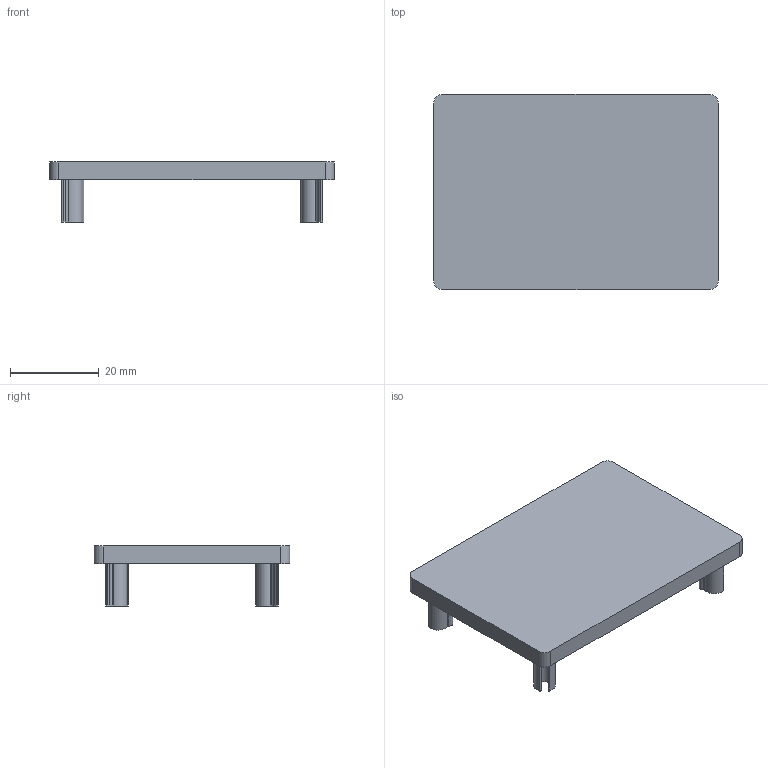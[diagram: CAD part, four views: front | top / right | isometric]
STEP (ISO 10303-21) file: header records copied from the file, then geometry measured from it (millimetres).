
FILE_DESCRIPTION (( 'STEP AP214' ), '1' );
FILE_NAME ('FBEC 44x64.step', '2017-04-05T08:00:58', ( '' ), ( '' ), 'SwSTEP 2.0', 'SolidWorks 2015', '' );
FILE_SCHEMA (( 'AUTOMOTIVE_DESIGN' ));
Length unit declared in the file: millimetre
Products named in the file (1): FBEC 44x64
Bounding box: 64 x 44 x 13.5 mm (x, y, z)
Volume: 8186.2 mm3; surface area: 7877.5 mm2
Topology: 1 solids, 1 shells, 110 faces, 306 edges, 204 vertices
Faces by surface type: cylinder 78, plane 32
Entity records: 3640 total; most frequent: DIRECTION 684, CARTESIAN_POINT 621, ORIENTED_EDGE 612, EDGE_CURVE 306, AXIS2_PLACEMENT_3D 267, VERTEX_POINT 204, CIRCLE 156, LINE 150
